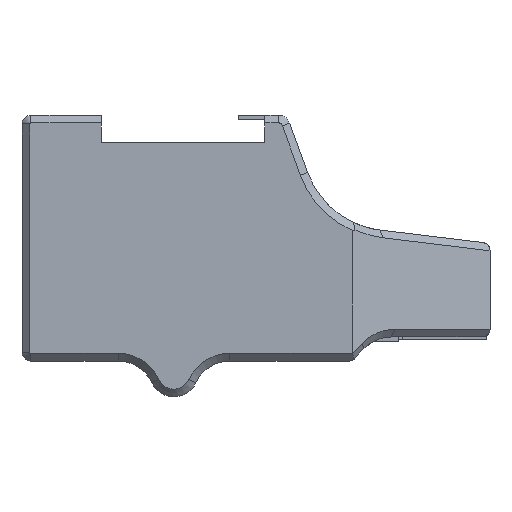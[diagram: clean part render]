
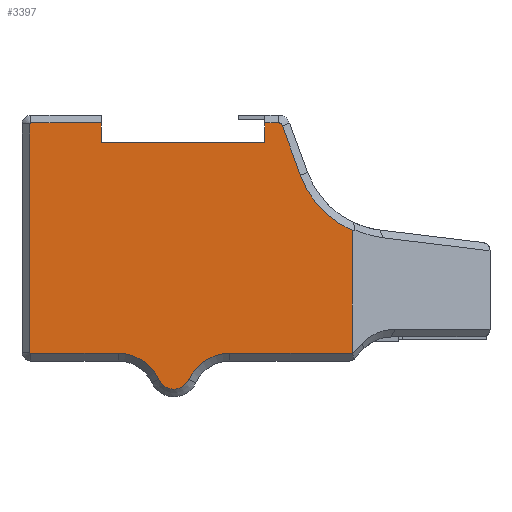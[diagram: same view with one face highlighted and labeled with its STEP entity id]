
A CAD part, left-side view. The second image highlights one B-rep face of the part: STEP entity #3397.
In plain terms, the highlighted planar face has unit normal (-1, 0, 0).
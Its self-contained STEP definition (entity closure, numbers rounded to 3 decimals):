
#2991=CIRCLE('',#12648,0.25);
#2992=CIRCLE('',#12651,0.25);
#2993=CIRCLE('',#12654,10.15);
#2994=CIRCLE('',#12656,3.75);
#2995=CIRCLE('',#12658,10.15);
#2996=CIRCLE('',#12661,21.75);
#3000=CIRCLE('',#12737,1.);
#3397=ADVANCED_FACE('',(#4046),#3708,.T.);
#3708=PLANE('',#12745);
#4046=FACE_OUTER_BOUND('',#4476,.T.);
#4476=EDGE_LOOP('',(#7806,#7807,#7808,#7809,#7810,#7811,#7812,#7813,#7814,
#7815,#7816,#7817,#7818,#7819,#7820,#7821,#7822));
#5080=LINE('',#16856,#5842);
#5084=LINE('',#16864,#5846);
#5087=LINE('',#16872,#5849);
#5091=LINE('',#16881,#5853);
#5096=LINE('',#16898,#5858);
#5102=LINE('',#16955,#5864);
#5223=LINE('',#17221,#5985);
#5247=LINE('',#17352,#6009);
#5249=LINE('',#17356,#6011);
#5250=LINE('',#17358,#6012);
#5842=VECTOR('',#14162,1.);
#5846=VECTOR('',#14168,1.);
#5849=VECTOR('',#14177,1.);
#5853=VECTOR('',#14187,1.);
#5858=VECTOR('',#14206,1.);
#5864=VECTOR('',#14226,1.);
#5985=VECTOR('',#14455,1.);
#6009=VECTOR('',#14525,1.);
#6011=VECTOR('',#14529,1.);
#6012=VECTOR('',#14530,1.);
#7806=ORIENTED_EDGE('',*,*,#11136,.F.);
#7807=ORIENTED_EDGE('',*,*,#11134,.F.);
#7808=ORIENTED_EDGE('',*,*,#10928,.F.);
#7809=ORIENTED_EDGE('',*,*,#10932,.T.);
#7810=ORIENTED_EDGE('',*,*,#10934,.T.);
#7811=ORIENTED_EDGE('',*,*,#10936,.T.);
#7812=ORIENTED_EDGE('',*,*,#10938,.T.);
#7813=ORIENTED_EDGE('',*,*,#10941,.T.);
#7814=ORIENTED_EDGE('',*,*,#10943,.T.);
#7815=ORIENTED_EDGE('',*,*,#10945,.T.);
#7816=ORIENTED_EDGE('',*,*,#10947,.T.);
#7817=ORIENTED_EDGE('',*,*,#11091,.T.);
#7818=ORIENTED_EDGE('',*,*,#10963,.T.);
#7819=ORIENTED_EDGE('',*,*,#10952,.T.);
#7820=ORIENTED_EDGE('',*,*,#10949,.T.);
#7821=ORIENTED_EDGE('',*,*,#11126,.T.);
#7822=ORIENTED_EDGE('',*,*,#11137,.T.);
#9570=VERTEX_POINT('',#16855);
#9571=VERTEX_POINT('',#16857);
#9573=VERTEX_POINT('',#16863);
#9574=VERTEX_POINT('',#16867);
#9575=VERTEX_POINT('',#16871);
#9576=VERTEX_POINT('',#16875);
#9577=VERTEX_POINT('',#16880);
#9578=VERTEX_POINT('',#16884);
#9579=VERTEX_POINT('',#16888);
#9580=VERTEX_POINT('',#16892);
#9582=VERTEX_POINT('',#16897);
#9583=VERTEX_POINT('',#16899);
#9585=VERTEX_POINT('',#16905);
#9593=VERTEX_POINT('',#16956);
#9676=VERTEX_POINT('',#17336);
#9681=VERTEX_POINT('',#17353);
#9682=VERTEX_POINT('',#17357);
#10928=EDGE_CURVE('',#9570,#9571,#5080,.T.);
#10932=EDGE_CURVE('',#9570,#9573,#5084,.T.);
#10934=EDGE_CURVE('',#9573,#9574,#2991,.T.);
#10936=EDGE_CURVE('',#9574,#9575,#5087,.T.);
#10938=EDGE_CURVE('',#9575,#9576,#2992,.T.);
#10941=EDGE_CURVE('',#9576,#9577,#5091,.T.);
#10943=EDGE_CURVE('',#9577,#9578,#2993,.T.);
#10945=EDGE_CURVE('',#9578,#9579,#2994,.T.);
#10947=EDGE_CURVE('',#9579,#9580,#2995,.T.);
#10949=EDGE_CURVE('',#9583,#9582,#5096,.T.);
#10952=EDGE_CURVE('',#9585,#9583,#2996,.T.);
#10963=EDGE_CURVE('',#9593,#9585,#5102,.T.);
#11091=EDGE_CURVE('',#9580,#9593,#5223,.T.);
#11126=EDGE_CURVE('',#9582,#9676,#3000,.T.);
#11134=EDGE_CURVE('',#9571,#9681,#5247,.T.);
#11136=EDGE_CURVE('',#9681,#9682,#5249,.T.);
#11137=EDGE_CURVE('',#9676,#9682,#5250,.T.);
#12648=AXIS2_PLACEMENT_3D('',#16868,#14172,#14173);
#12651=AXIS2_PLACEMENT_3D('',#16876,#14181,#14182);
#12654=AXIS2_PLACEMENT_3D('',#16885,#14191,#14192);
#12656=AXIS2_PLACEMENT_3D('',#16889,#14196,#14197);
#12658=AXIS2_PLACEMENT_3D('',#16893,#14201,#14202);
#12661=AXIS2_PLACEMENT_3D('',#16904,#14211,#14212);
#12737=AXIS2_PLACEMENT_3D('',#17337,#14507,#14508);
#12745=AXIS2_PLACEMENT_3D('',#17359,#14531,#14532);
#14162=DIRECTION('',(0.,0.,-1.));
#14168=DIRECTION('',(0.,1.,0.));
#14172=DIRECTION('',(-1.,0.,0.));
#14173=DIRECTION('',(0.,1.,0.));
#14177=DIRECTION('',(0.,0.,-1.));
#14181=DIRECTION('',(-1.,0.,0.));
#14182=DIRECTION('',(0.,1.,0.));
#14187=DIRECTION('',(0.,-1.,0.));
#14191=DIRECTION('',(1.,0.,0.));
#14192=DIRECTION('',(0.,1.,0.));
#14196=DIRECTION('',(-1.,0.,0.));
#14197=DIRECTION('',(0.,1.,0.));
#14201=DIRECTION('',(1.,0.,0.));
#14202=DIRECTION('',(0.,1.,0.));
#14206=DIRECTION('',(0.,0.342,0.94));
#14211=DIRECTION('',(1.,0.,0.));
#14212=DIRECTION('',(0.,1.,0.));
#14226=DIRECTION('',(0.,0.,1.));
#14455=DIRECTION('',(0.,-1.,0.));
#14507=DIRECTION('',(-1.,0.,0.));
#14508=DIRECTION('',(0.,1.,0.));
#14525=DIRECTION('',(0.,-1.,0.));
#14529=DIRECTION('',(0.,0.,1.));
#14530=DIRECTION('',(0.,1.,0.));
#14531=DIRECTION('',(-1.,0.,0.));
#14532=DIRECTION('',(0.,0.,1.));
#16855=CARTESIAN_POINT('',(-39.938,74.55,35.63));
#16856=CARTESIAN_POINT('',(-39.938,74.55,38.18));
#16857=CARTESIAN_POINT('',(-39.938,74.55,31.18));
#16863=CARTESIAN_POINT('',(-39.938,90.55,35.63));
#16864=CARTESIAN_POINT('',(-39.938,37.55,35.63));
#16867=CARTESIAN_POINT('',(-39.938,90.8,35.38));
#16868=CARTESIAN_POINT('',(-39.938,90.55,35.38));
#16871=CARTESIAN_POINT('',(-39.938,90.8,-16.32));
#16872=CARTESIAN_POINT('',(-39.938,90.8,38.18));
#16875=CARTESIAN_POINT('',(-39.938,90.55,-16.57));
#16876=CARTESIAN_POINT('',(-39.938,90.55,-16.32));
#16880=CARTESIAN_POINT('',(-39.938,70.782,-16.57));
#16881=CARTESIAN_POINT('',(-39.938,39.55,-16.57));
#16884=CARTESIAN_POINT('',(-39.938,61.558,-22.485));
#16885=CARTESIAN_POINT('',(-39.938,70.782,-26.72));
#16888=CARTESIAN_POINT('',(-39.938,54.742,-22.485));
#16889=CARTESIAN_POINT('',(-39.938,58.15,-20.92));
#16892=CARTESIAN_POINT('',(-39.938,45.518,-16.57));
#16893=CARTESIAN_POINT('',(-39.938,45.518,-26.72));
#16897=CARTESIAN_POINT('',(-39.938,33.567,34.972));
#16898=CARTESIAN_POINT('',(-39.938,35.298,39.728));
#16899=CARTESIAN_POINT('',(-39.938,29.488,23.767));
#16904=CARTESIAN_POINT('',(-39.938,9.05,31.206));
#16905=CARTESIAN_POINT('',(-39.938,17.727,11.262));
#16955=CARTESIAN_POINT('',(-39.938,17.727,38.18));
#16956=CARTESIAN_POINT('',(-39.938,17.727,-16.57));
#17221=CARTESIAN_POINT('',(-39.938,39.55,-16.57));
#17336=CARTESIAN_POINT('',(-39.938,34.506,35.63));
#17337=CARTESIAN_POINT('',(-39.938,34.506,34.63));
#17352=CARTESIAN_POINT('',(-39.938,39.55,31.18));
#17353=CARTESIAN_POINT('',(-39.938,37.55,31.18));
#17356=CARTESIAN_POINT('',(-39.938,37.55,38.18));
#17357=CARTESIAN_POINT('',(-39.938,37.55,35.63));
#17358=CARTESIAN_POINT('',(-39.938,37.55,35.63));
#17359=CARTESIAN_POINT('',(-39.938,39.55,38.18));
